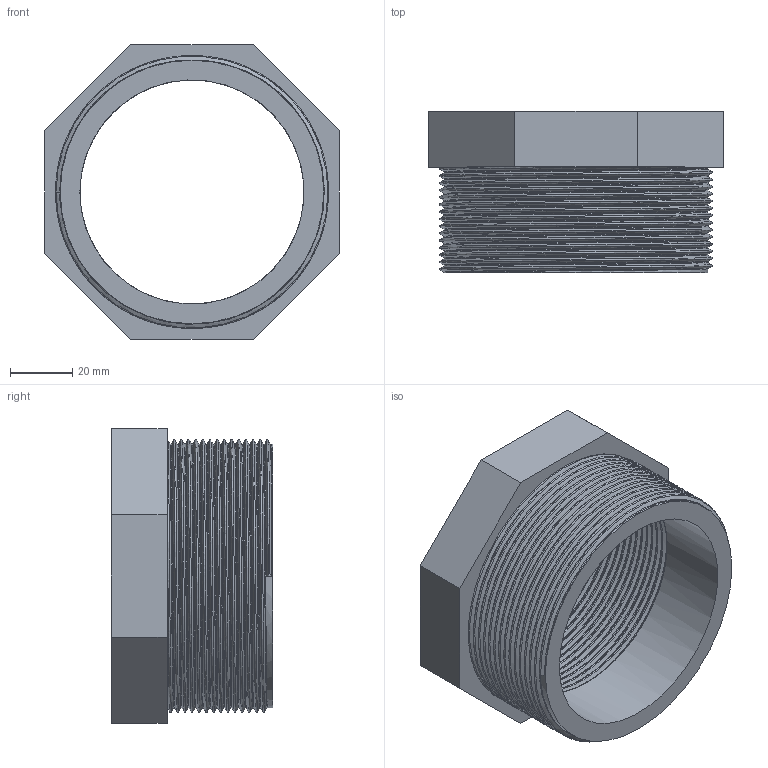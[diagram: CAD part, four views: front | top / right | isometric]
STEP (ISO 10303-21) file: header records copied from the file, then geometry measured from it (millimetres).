
FILE_DESCRIPTION(/* description */ ('PVC riduzione filettata BSP maschio-femmina'),/* implementation_level */ '2;1');
FILE_NAME(/* name */ 'C:\Users\POLYPIPE\Desktop\DATASET INVENTOR\LIBRERIA EFFAST\RACCORDI 3DxWEB\RER\3D_RERRCE\3D_RERRCE090H.stp',/* time_stamp */ '2018-01-19T16:58:50+01:00',/* author */ ('POLYPIPE'),/* organization */ ('Polypipe Italia s.r.l.'),/* preprocessor_version */ 'ST-DEVELOPER v16.1',/* originating_system */ 'Autodesk Inventor 2016',/* authorisation */ '');
FILE_SCHEMA (('CONFIG_CONTROL_DESIGN'));
Length unit declared in the file: millimetre
Products named in the file (1): 3D_RERRCE
Bounding box: 95 x 52 x 95 mm (x, y, z)
Volume: 115720.4 mm3; surface area: 44343 mm2
Topology: 1 solids, 1 shells, 25 faces, 62 edges, 40 vertices
Faces by surface type: plane 13, bspline 10, cylinder 2
Full cylindrical faces by diameter (mm): 72.226 x1, 84.926 x1
Entity records: 11200 total; most frequent: CARTESIAN_POINT 10653, ORIENTED_EDGE 120, DIRECTION 78, EDGE_CURVE 60, VERTEX_POINT 39, LINE 30, VECTOR 30, EDGE_LOOP 29
